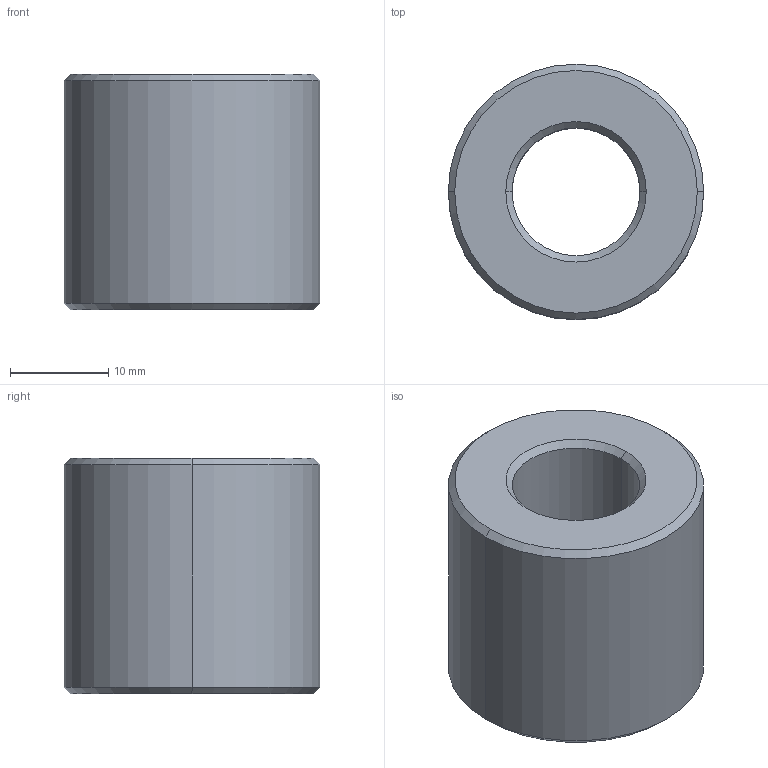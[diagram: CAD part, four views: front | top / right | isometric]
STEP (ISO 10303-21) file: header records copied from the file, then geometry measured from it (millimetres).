
FILE_DESCRIPTION (( 'STEP AP203' ), '1' );
FILE_NAME ('L1330.L12-03.step', '2024-10-24T09:21:49', ( '' ), ( '' ), 'SwSTEP 2.0', 'SolidWorks 2019', '' );
FILE_SCHEMA (( 'CONFIG_CONTROL_DESIGN' ));
Length unit declared in the file: millimetre
Products named in the file (1): L1330.L12-03
Bounding box: 26 x 26 x 24 mm (x, y, z)
Volume: 9505 mm3; surface area: 3643.6 mm2
Topology: 1 solids, 1 shells, 14 faces, 28 edges, 16 vertices
Faces by surface type: cone 8, cylinder 4, plane 2
Entity records: 445 total; most frequent: DIRECTION 74, CARTESIAN_POINT 59, ORIENTED_EDGE 56, AXIS2_PLACEMENT_3D 31, EDGE_CURVE 28, VERTEX_POINT 16, CIRCLE 16, EDGE_LOOP 16
